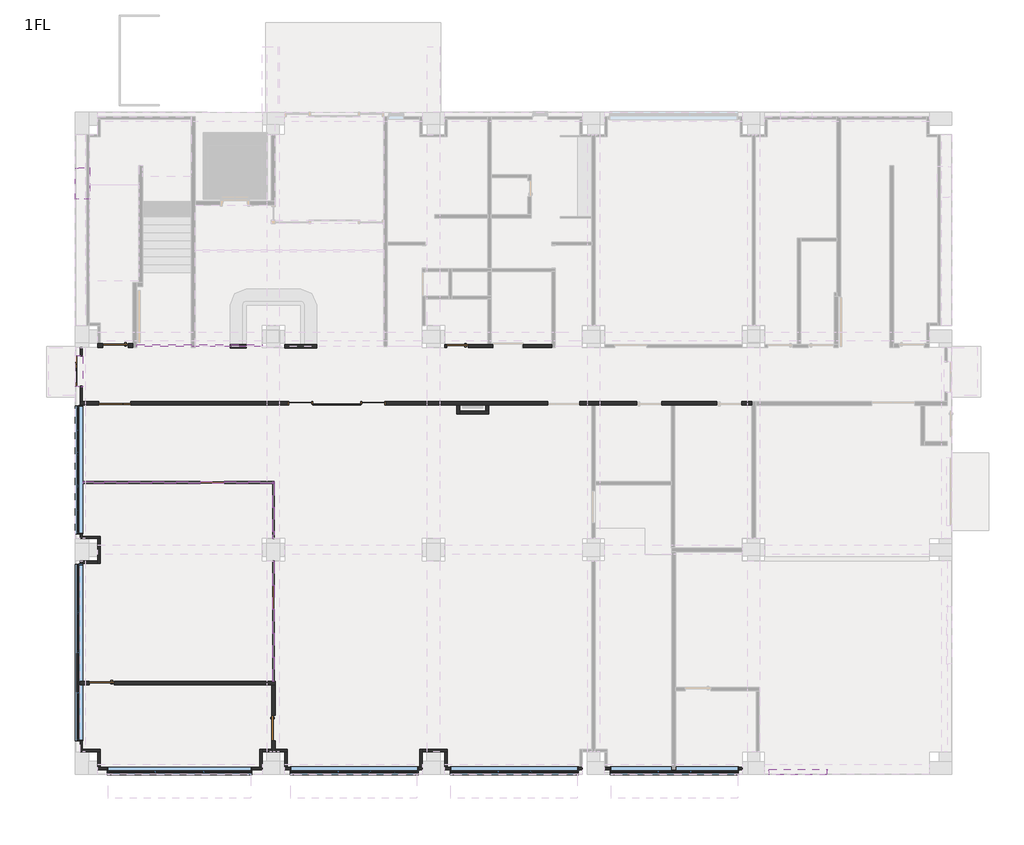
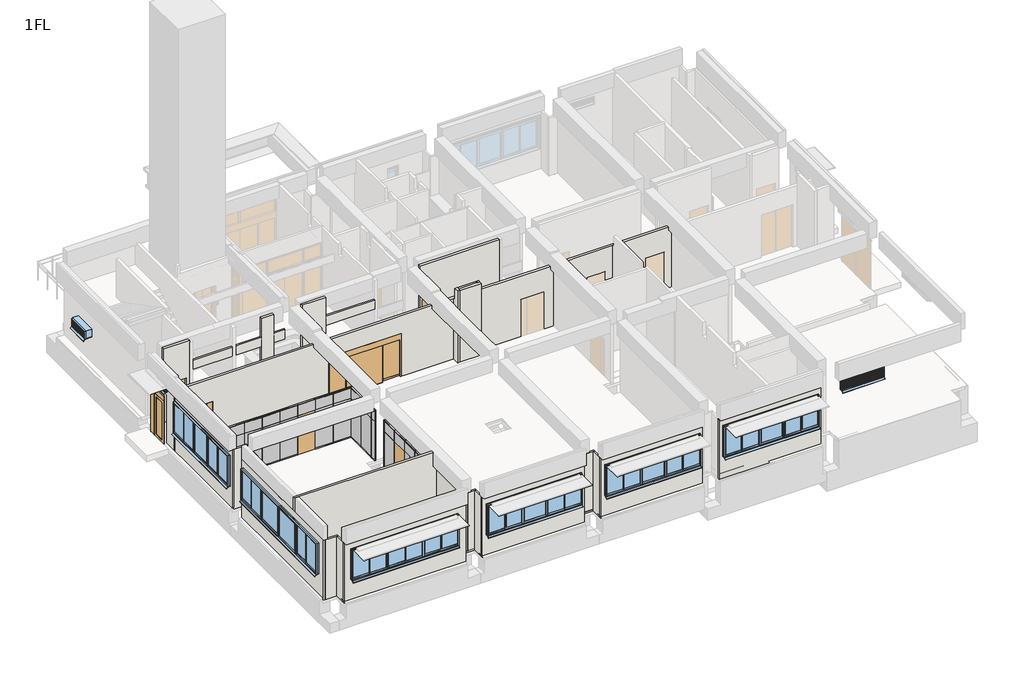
# One storey, part 1 of 7: 32 plates, 28 walls, 9 doors, 9 windows, 4 members.
"""IFC4 building model written with IfcOpenShell, lengths in millimetres."""

from ifc_helpers import new_model, si_unit, frame, origin, origin_with_axes, place, context, project, spatial, polyline, outline, extrude, faceted_brep, transform, mapped, element, save
from components import door_0812e9ce, door_48d1ee04, door_c406cbe6, door_18b0804b, door_71913196, pt1_1e1990d0, sd1b_5d5fe467, member_b4131282, member_8fee23aa, plate_13d9f7b6, plate_d83be5bd, plate_2d8f2c81, plate_48031bed, plate_dcb82f18, plate_a020456c, plate_84f50978, plate_53a28b3e, plate_ee08bcfe, plate_43aaac86, ag_01_14c91b01, ag_04_e8160d57, ag_05_8d684ac1, aw1_ddd8473e, aw2_a9c71f60, aw3_4e8724e7

model = new_model("IFC4")

# Units and contexts
model_context = context("Model", 3, world=origin())
ifc_project = project(units=[si_unit("LENGTHUNIT", "METRE", prefix="MILLI")], contexts=[model_context])

# Site, building, storey
site = spatial("IfcSite", under=ifc_project)
building = spatial("IfcBuilding", under=site)
storey = spatial("IfcBuildingStorey", under=building, Name="1FL", Elevation=0.0)

# Doors
placement = place(None, origin())
door_shape = door_0812e9ce(model_context)
element("IfcDoor", 1, ObjectType="営_片開き扉 : LD3 950*2000", at=placement, inside=storey, context=model_context, shape_type="MappedRepresentation", body=[
    mapped(door_shape, transform((565.0, 3000.0, 0.0), x_axis=(-1.0, 0.0, 0.0), y_axis=(0.0, -1.0, 0.0), z_axis=(0.0, 0.0, 1.0))),
])
element("IfcDoor", 2, ObjectType="営_片開き扉 : LD3 950*2000", at=placement, inside=storey, context=model_context, shape_type="MappedRepresentation", body=[
    mapped(door_shape, transform((7000.0, 1320.0, 0.0), x_axis=(0.0, -1.0, 0.0), y_axis=(1.0, 0.0, 0.0), z_axis=(0.0, 0.0, 1.0))),
])
door_2_shape = door_48d1ee04(model_context)
element("IfcDoor", 3, ObjectType="営_片開き扉 : LD11 850*2000", at=placement, inside=storey, context=model_context, shape_type="MappedRepresentation", body=[
    mapped(door_2_shape, transform((13900.0, 15640.0, 0.0), x_axis=(-1.0, 0.0, 0.0), y_axis=(0.0, -1.0, 0.0), z_axis=(0.0, 0.0, 1.0))),
])
door_3_shape = door_c406cbe6(model_context)
element("IfcDoor", 4, ObjectType="営_片開き扉 : LD3 950*2000", at=placement, inside=storey, context=model_context, shape_type="MappedRepresentation", body=[
    mapped(door_3_shape, transform((1075.0, 15655.0, 0.0), x_axis=(-1.0, 0.0, 0.0), y_axis=(0.0, -1.0, 0.0), z_axis=(0.0, 0.0, 1.0))),
])
door_4_shape = door_18b0804b(model_context)
element("IfcDoor", 5, ObjectType="営_親子扉 : LD2 1200*2000", at=placement, inside=storey, context=model_context, shape_type="MappedRepresentation", body=[
    mapped(door_4_shape, transform((1055.0, 13500.0, 0.0), x_axis=(-1.0, 0.0, 0.0), y_axis=(0.0, -1.0, 0.0), z_axis=(0.0, 0.0, 1.0))),
])
door_5_shape = door_71913196(model_context)
element("IfcDoor", 6, ObjectType="営_自動ドア 両引き : SSD2 3600*2300", at=placement, inside=storey, context=model_context, shape_type="MappedRepresentation", body=[
    mapped(door_5_shape, transform((9372.3723775, 13490.0, 0.0), x_axis=(-1.0, 0.0, 0.0), y_axis=(0.0, -1.0, 0.0), z_axis=(0.0, 0.0, 1.0))),
])
pt1_shape = pt1_1e1990d0(model_context)
element("IfcDoor", 7, ObjectType="営_パーティションドア : PT1", at=placement, inside=storey, context=model_context, shape_type="MappedRepresentation", body=[
    mapped(pt1_shape, transform((4714.9999997, 10520.0, 0.0), x_axis=(-1.0, 0.0, 0.0), y_axis=(0.0, -1.0, 0.0), z_axis=(0.0, 0.0, 1.0))),
])
element("IfcDoor", 8, ObjectType="営_パーティションドア : PT2", at=placement, inside=storey, context=model_context, shape_type="MappedRepresentation", body=[
    mapped(pt1_shape, transform((7000.0, 6220.0, 0.0), x_axis=(0.0, 1.0, 0.0), y_axis=(-1.0, 0.0, 0.0), z_axis=(0.0, 0.0, 1.0))),
])
sd1b_shape = sd1b_5d5fe467(model_context)
element("IfcDoor", 9, ObjectType="営_親子扉+ランマ : SD1b", at=placement, inside=storey, context=model_context, shape_type="MappedRepresentation", body=[
    mapped(sd1b_shape, transform((-335.0, 14707.5, 0.0), x_axis=(0.0, -1.0, 0.0), y_axis=(1.0, 0.0, 0.0), z_axis=(0.0, 0.0, 1.0))),
])

# Members
member_shape = member_b4131282(model_context)
element("IfcMember", 10, ObjectType="長方形マリオン : 70*70", at=placement, inside=storey, context=model_context, shape_type="MappedRepresentation", body=[
    mapped(member_shape, transform((7000.0, 10555.0, 0.0), x_axis=(0.0, 1.0, 0.0), y_axis=(1.0, 0.0, 0.0), z_axis=(0.0, 0.0, -1.0))),
])
element("IfcMember", 11, ObjectType="長方形マリオン : 70*70", at=placement, inside=storey, context=model_context, shape_type="MappedRepresentation", body=[
    mapped(member_shape, transform((7035.0, 10520.0, 0.0), x_axis=(1.0, 0.0, 0.0), y_axis=(0.0, -1.0, 0.0), z_axis=(0.0, 0.0, -1.0))),
])
member_2_shape = member_8fee23aa(model_context)
element("IfcMember", 12, ObjectType="長方形マリオン : 70*70", at=placement, inside=storey, context=model_context, shape_type="MappedRepresentation", body=[
    mapped(member_2_shape, transform((7000.0, 10555.0, 2100.0), x_axis=(0.0, 1.0, 0.0), y_axis=(1.0, 0.0, 0.0), z_axis=(0.0, 0.0, -1.0))),
])
element("IfcMember", 13, ObjectType="長方形マリオン : 70*70", at=placement, inside=storey, context=model_context, shape_type="MappedRepresentation", body=[
    mapped(member_2_shape, transform((7035.0, 10520.0, 2100.0), x_axis=(1.0, 0.0, 0.0), y_axis=(0.0, -1.0, 0.0), z_axis=(0.0, 0.0, -1.0))),
])

# Plates
plate_shape = plate_13d9f7b6(model_context)
element("IfcPlate", 14, ObjectType="営_パーティションパネル_下部 : パーティションパネル_下部", at=placement, inside=storey, context=model_context, shape_type="MappedRepresentation", body=[
    mapped(plate_shape, transform((7000.0, 7580.0, 0.0), x_axis=(0.0, -1.0, 0.0), y_axis=(1.0, 0.0, 0.0), z_axis=(0.0, 0.0, 1.0))),
])
plate_2_shape = plate_d83be5bd(model_context)
element("IfcPlate", 15, ObjectType="営_パーティションパネル_上部 : パーティションパネル_上部", at=placement, inside=storey, context=model_context, shape_type="MappedRepresentation", body=[
    mapped(plate_2_shape, transform((7000.0, 7580.0, 2100.0), x_axis=(0.0, -1.0, 0.0), y_axis=(1.0, 0.0, 0.0), z_axis=(0.0, 0.0, 1.0))),
])
plate_3_shape = plate_2d8f2c81(model_context)
element("IfcPlate", 16, ObjectType="営_パーティションパネル_下部 : パーティションパネル_下部", at=placement, inside=storey, context=model_context, shape_type="MappedRepresentation", body=[
    mapped(plate_3_shape, transform((267.4999998, 10520.0, 0.0), x_axis=(1.0, 0.0, 0.0), y_axis=(0.0, 1.0, 0.0), z_axis=(0.0, 0.0, 1.0))),
])
plate_4_shape = plate_48031bed(model_context)
element("IfcPlate", 17, ObjectType="営_パーティションパネル_上部 : パーティションパネル_上部", at=placement, inside=storey, context=model_context, shape_type="MappedRepresentation", body=[
    mapped(plate_4_shape, transform((267.4999998, 10520.0, 2100.0), x_axis=(1.0, 0.0, 0.0), y_axis=(0.0, 1.0, 0.0), z_axis=(0.0, 0.0, 1.0))),
])
plate_5_shape = plate_dcb82f18(model_context)
element("IfcPlate", 18, ObjectType="営_パーティションパネル_下部 : パーティションパネル_下部", at=placement, inside=storey, context=model_context, shape_type="MappedRepresentation", body=[
    mapped(plate_5_shape, transform((7000.0, 3515.0, 0.0), x_axis=(0.0, -1.0, 0.0), y_axis=(1.0, 0.0, 0.0), z_axis=(0.0, 0.0, 1.0))),
])
plate_6_shape = plate_a020456c(model_context)
element("IfcPlate", 19, ObjectType="営_パーティションパネル_上部 : パーティションパネル_上部", at=placement, inside=storey, context=model_context, shape_type="MappedRepresentation", body=[
    mapped(plate_6_shape, transform((7000.0, 3515.0, 2100.0), x_axis=(0.0, -1.0, 0.0), y_axis=(1.0, 0.0, 0.0), z_axis=(0.0, 0.0, 1.0))),
])
plate_7_shape = plate_84f50978(model_context)
element("IfcPlate", 20, ObjectType="営_パーティションパネル_下部 : パーティションパネル_下部", at=placement, inside=storey, context=model_context, shape_type="MappedRepresentation", body=[
    mapped(plate_7_shape, transform((1114.9999997, 10520.0, 0.0), x_axis=(1.0, 0.0, 0.0), y_axis=(0.0, 1.0, 0.0), z_axis=(0.0, 0.0, 1.0))),
])
element("IfcPlate", 21, ObjectType="営_パーティションパネル_下部 : パーティションパネル_下部", at=placement, inside=storey, context=model_context, shape_type="MappedRepresentation", body=[
    mapped(plate_7_shape, transform((2014.9999997, 10520.0, 0.0), x_axis=(1.0, 0.0, 0.0), y_axis=(0.0, 1.0, 0.0), z_axis=(0.0, 0.0, 1.0))),
])
element("IfcPlate", 22, ObjectType="営_パーティションパネル_下部 : パーティションパネル_下部", at=placement, inside=storey, context=model_context, shape_type="MappedRepresentation", body=[
    mapped(plate_7_shape, transform((2914.9999997, 10520.0, 0.0), x_axis=(1.0, 0.0, 0.0), y_axis=(0.0, 1.0, 0.0), z_axis=(0.0, 0.0, 1.0))),
])
element("IfcPlate", 23, ObjectType="営_パーティションパネル_下部 : パーティションパネル_下部", at=placement, inside=storey, context=model_context, shape_type="MappedRepresentation", body=[
    mapped(plate_7_shape, transform((3814.9999997, 10520.0, 0.0), x_axis=(1.0, 0.0, 0.0), y_axis=(0.0, 1.0, 0.0), z_axis=(0.0, 0.0, 1.0))),
])
element("IfcPlate", 24, ObjectType="営_パーティションパネル_下部 : パーティションパネル_下部", at=placement, inside=storey, context=model_context, shape_type="MappedRepresentation", body=[
    mapped(plate_7_shape, transform((5614.9999997, 10520.0, 0.0), x_axis=(1.0, 0.0, 0.0), y_axis=(0.0, 1.0, 0.0), z_axis=(0.0, 0.0, 1.0))),
])
element("IfcPlate", 25, ObjectType="営_パーティションパネル_下部 : パーティションパネル_下部", at=placement, inside=storey, context=model_context, shape_type="MappedRepresentation", body=[
    mapped(plate_7_shape, transform((7000.0, 9134.9999997, 0.0), x_axis=(0.0, 1.0, 0.0), y_axis=(-1.0, 0.0, 0.0), z_axis=(0.0, 0.0, 1.0))),
])
element("IfcPlate", 26, ObjectType="営_パーティションパネル_下部 : パーティションパネル_下部", at=placement, inside=storey, context=model_context, shape_type="MappedRepresentation", body=[
    mapped(plate_7_shape, transform((7000.0, 10034.9999998, 0.0), x_axis=(0.0, 1.0, 0.0), y_axis=(-1.0, 0.0, 0.0), z_axis=(0.0, 0.0, 1.0))),
])
element("IfcPlate", 27, ObjectType="営_パーティションパネル_下部 : パーティションパネル_下部", at=placement, inside=storey, context=model_context, shape_type="MappedRepresentation", body=[
    mapped(plate_7_shape, transform((6514.9999998, 10520.0, 0.0), x_axis=(1.0, 0.0, 0.0), y_axis=(0.0, 1.0, 0.0), z_axis=(0.0, 0.0, 1.0))),
])
element("IfcPlate", 28, ObjectType="営_パーティションパネル_下部 : パーティションパネル_下部", at=placement, inside=storey, context=model_context, shape_type="MappedRepresentation", body=[
    mapped(plate_7_shape, transform((7000.0, 5320.0, 0.0), x_axis=(0.0, -1.0, 0.0), y_axis=(1.0, 0.0, 0.0), z_axis=(0.0, 0.0, 1.0))),
])
element("IfcPlate", 29, ObjectType="営_パーティションパネル_下部 : パーティションパネル_下部", at=placement, inside=storey, context=model_context, shape_type="MappedRepresentation", body=[
    mapped(plate_7_shape, transform((7000.0, 4420.0, 0.0), x_axis=(0.0, -1.0, 0.0), y_axis=(1.0, 0.0, 0.0), z_axis=(0.0, 0.0, 1.0))),
])
element("IfcPlate", 30, ObjectType="営_パーティションパネル_下部 : パーティションパネル_下部", at=placement, inside=storey, context=model_context, shape_type="MappedRepresentation", body=[
    mapped(plate_7_shape, transform((7000.0, 7120.0, 0.0), x_axis=(0.0, -1.0, 0.0), y_axis=(1.0, 0.0, 0.0), z_axis=(0.0, 0.0, 1.0))),
])
plate_8_shape = plate_53a28b3e(model_context)
element("IfcPlate", 31, ObjectType="営_パーティションパネル_上部 : パーティションパネル_上部", at=placement, inside=storey, context=model_context, shape_type="MappedRepresentation", body=[
    mapped(plate_8_shape, transform((1114.9999997, 10520.0, 2100.0), x_axis=(1.0, 0.0, 0.0), y_axis=(0.0, 1.0, 0.0), z_axis=(0.0, 0.0, 1.0))),
])
element("IfcPlate", 32, ObjectType="営_パーティションパネル_上部 : パーティションパネル_上部", at=placement, inside=storey, context=model_context, shape_type="MappedRepresentation", body=[
    mapped(plate_8_shape, transform((2014.9999997, 10520.0, 2100.0), x_axis=(1.0, 0.0, 0.0), y_axis=(0.0, 1.0, 0.0), z_axis=(0.0, 0.0, 1.0))),
])
element("IfcPlate", 33, ObjectType="営_パーティションパネル_上部 : パーティションパネル_上部", at=placement, inside=storey, context=model_context, shape_type="MappedRepresentation", body=[
    mapped(plate_8_shape, transform((2914.9999997, 10520.0, 2100.0), x_axis=(1.0, 0.0, 0.0), y_axis=(0.0, 1.0, 0.0), z_axis=(0.0, 0.0, 1.0))),
])
element("IfcPlate", 34, ObjectType="営_パーティションパネル_上部 : パーティションパネル_上部", at=placement, inside=storey, context=model_context, shape_type="MappedRepresentation", body=[
    mapped(plate_8_shape, transform((3814.9999997, 10520.0, 2100.0), x_axis=(1.0, 0.0, 0.0), y_axis=(0.0, 1.0, 0.0), z_axis=(0.0, 0.0, 1.0))),
])
element("IfcPlate", 35, ObjectType="営_パーティションパネル_上部 : パーティションパネル_上部", at=placement, inside=storey, context=model_context, shape_type="MappedRepresentation", body=[
    mapped(plate_8_shape, transform((4714.9999997, 10520.0, 2100.0), x_axis=(1.0, 0.0, 0.0), y_axis=(0.0, 1.0, 0.0), z_axis=(0.0, 0.0, 1.0))),
])
element("IfcPlate", 36, ObjectType="営_パーティションパネル_上部 : パーティションパネル_上部", at=placement, inside=storey, context=model_context, shape_type="MappedRepresentation", body=[
    mapped(plate_8_shape, transform((5614.9999997, 10520.0, 2100.0), x_axis=(1.0, 0.0, 0.0), y_axis=(0.0, 1.0, 0.0), z_axis=(0.0, 0.0, 1.0))),
])
element("IfcPlate", 37, ObjectType="営_パーティションパネル_上部 : パーティションパネル_上部", at=placement, inside=storey, context=model_context, shape_type="MappedRepresentation", body=[
    mapped(plate_8_shape, transform((7000.0, 9134.9999997, 2100.0), x_axis=(0.0, 1.0, 0.0), y_axis=(-1.0, 0.0, 0.0), z_axis=(0.0, 0.0, 1.0))),
])
element("IfcPlate", 38, ObjectType="営_パーティションパネル_上部 : パーティションパネル_上部", at=placement, inside=storey, context=model_context, shape_type="MappedRepresentation", body=[
    mapped(plate_8_shape, transform((7000.0, 10034.9999998, 2100.0), x_axis=(0.0, 1.0, 0.0), y_axis=(-1.0, 0.0, 0.0), z_axis=(0.0, 0.0, 1.0))),
])
element("IfcPlate", 39, ObjectType="営_パーティションパネル_上部 : パーティションパネル_上部", at=placement, inside=storey, context=model_context, shape_type="MappedRepresentation", body=[
    mapped(plate_8_shape, transform((6514.9999998, 10520.0, 2100.0), x_axis=(1.0, 0.0, 0.0), y_axis=(0.0, 1.0, 0.0), z_axis=(0.0, 0.0, 1.0))),
])
element("IfcPlate", 40, ObjectType="営_パーティションパネル_上部 : パーティションパネル_上部", at=placement, inside=storey, context=model_context, shape_type="MappedRepresentation", body=[
    mapped(plate_8_shape, transform((7000.0, 6220.0, 2100.0), x_axis=(0.0, -1.0, 0.0), y_axis=(1.0, 0.0, 0.0), z_axis=(0.0, 0.0, 1.0))),
])
element("IfcPlate", 41, ObjectType="営_パーティションパネル_上部 : パーティションパネル_上部", at=placement, inside=storey, context=model_context, shape_type="MappedRepresentation", body=[
    mapped(plate_8_shape, transform((7000.0, 5320.0, 2100.0), x_axis=(0.0, -1.0, 0.0), y_axis=(1.0, 0.0, 0.0), z_axis=(0.0, 0.0, 1.0))),
])
element("IfcPlate", 42, ObjectType="営_パーティションパネル_上部 : パーティションパネル_上部", at=placement, inside=storey, context=model_context, shape_type="MappedRepresentation", body=[
    mapped(plate_8_shape, transform((7000.0, 4420.0, 2100.0), x_axis=(0.0, -1.0, 0.0), y_axis=(1.0, 0.0, 0.0), z_axis=(0.0, 0.0, 1.0))),
])
element("IfcPlate", 43, ObjectType="営_パーティションパネル_上部 : パーティションパネル_上部", at=placement, inside=storey, context=model_context, shape_type="MappedRepresentation", body=[
    mapped(plate_8_shape, transform((7000.0, 7120.0, 2100.0), x_axis=(0.0, -1.0, 0.0), y_axis=(1.0, 0.0, 0.0), z_axis=(0.0, 0.0, 1.0))),
])
plate_9_shape = plate_ee08bcfe(model_context)
element("IfcPlate", 44, ObjectType="営_パーティションパネル_下部 : パーティションパネル_下部", at=placement, inside=storey, context=model_context, shape_type="MappedRepresentation", body=[
    mapped(plate_9_shape, transform((7000.0, 8552.4999998, 0.0), x_axis=(0.0, 1.0, 0.0), y_axis=(-1.0, 0.0, 0.0), z_axis=(0.0, 0.0, 1.0))),
])
plate_10_shape = plate_43aaac86(model_context)
element("IfcPlate", 45, ObjectType="営_パーティションパネル_上部 : パーティションパネル_上部", at=placement, inside=storey, context=model_context, shape_type="MappedRepresentation", body=[
    mapped(plate_10_shape, transform((7000.0, 8552.4999998, 2100.0), x_axis=(0.0, 1.0, 0.0), y_axis=(-1.0, 0.0, 0.0), z_axis=(0.0, 0.0, 1.0))),
])

# Walls
element("IfcWall", 46, ObjectType="(内壁)W4", at=placement, inside=storey, context=model_context, shape_type="Brep", body=[
    faceted_brep([(-250.0, 2940.0, 3850.0), (-250.0, 2940.0, 0.0), (90.0, 2940.0, 0.0), (90.0, 2940.0, 2000.0), (1040.0, 2940.0, 2000.0), (1040.0, 2940.0, 0.0), (6940.0, 2940.0, 0.0), (7060.0, 2940.0, 0.0), (7060.0, 2940.0, 3100.0), (6940.0, 2940.0, 3100.0), (6775.0, 2940.0, 3100.0), (6775.0, 2940.0, 3850.0), (-250.0, 3060.0, 0.0), (-250.0, 3060.0, 3850.0), (6775.0, 3060.0, 3850.0), (6775.0, 3060.0, 3100.0), (7060.0, 3060.0, 3100.0), (7060.0, 3060.0, 0.0), (1040.0, 3060.0, 0.0), (1040.0, 3060.0, 2000.0), (90.0, 3060.0, 2000.0), (90.0, 3060.0, 0.0)], [[[0, 1, 2, 3, 4, 5, 6, 7, 8, 9, 10, 11]], [[12, 13, 14, 15, 16, 17, 18, 19, 20, 21]], [[1, 12, 21, 2]], [[17, 7, 6, 5, 18]], [[13, 0, 11, 14]], [[1, 0, 13, 12]], [[7, 17, 16, 8]], [[5, 4, 19, 18]], [[3, 2, 21, 20]], [[4, 3, 20, 19]], [[15, 10, 9, 8, 16]], [[10, 15, 14, 11]]]),
])
element("IfcWall", 47, ObjectType="(内壁)W4", at=placement, inside=storey, context=model_context, shape_type="Brep", body=[
    faceted_brep([(6940.0, 1795.0, 0.0), (6940.0, 1795.0, 2000.0), (6940.0, 845.0, 2000.0), (6940.0, 845.0, 0.0), (6940.0, 510.0, 0.0), (6940.0, 420.0, 0.0), (6940.0, 420.0, 3100.0), (6940.0, 510.0, 3100.0), (6940.0, 2940.0, 3100.0), (6940.0, 2940.0, 0.0), (7060.0, 1795.0, 2000.0), (7060.0, 1795.0, 0.0), (7060.0, 2940.0, 0.0), (7060.0, 2940.0, 3100.0), (7060.0, 510.0, 3100.0), (7060.0, 420.0, 3100.0), (7060.0, 420.0, 0.0), (7060.0, 510.0, 0.0), (7060.0, 845.0, 0.0), (7060.0, 845.0, 2000.0)], [[[0, 1, 2, 3, 4, 5, 6, 7, 8, 9]], [[10, 11, 12, 13, 14, 15, 16, 17, 18, 19]], [[9, 12, 11, 0]], [[3, 18, 17, 16, 5, 4]], [[12, 9, 8, 13]], [[11, 10, 1, 0]], [[19, 18, 3, 2]], [[10, 19, 2, 1]], [[5, 16, 15, 6]], [[8, 7, 6, 15, 14, 13]]]),
])
element("IfcWall", 48, ObjectType="(内壁)W3", at=placement, inside=storey, context=model_context, shape_type="Brep", body=[
    faceted_brep([(1655.0, 13440.0, 2000.0), (1655.0, 13440.0, 0.0), (7532.3723775, 13440.0, 0.0), (7532.3723775, 13440.0, 2300.0), (11212.3723775, 13440.0, 2300.0), (11212.3723775, 13440.0, 0.0), (13870.0, 13440.0, 0.0), (13990.0, 13440.0, 0.0), (14950.0, 13440.0, 0.0), (15070.0, 13440.0, 0.0), (17275.0, 13440.0, 0.0), (17275.0, 13440.0, 2000.0), (18475.0, 13440.0, 2000.0), (18475.0, 13440.0, 0.0), (20610.0, 13440.0, 0.0), (20610.0, 13440.0, 2000.0), (21560.0, 13440.0, 2000.0), (21560.0, 13440.0, 0.0), (21920.0, 13440.0, 0.0), (22040.0, 13440.0, 0.0), (23610.0, 13440.0, 0.0), (23610.0, 13440.0, 2000.0), (24560.0, 13440.0, 2000.0), (24560.0, 13440.0, 0.0), (24925.0, 13440.0, 0.0), (24925.0, 13440.0, 3100.0), (24775.0, 13440.0, 3100.0), (24775.0, 13440.0, 3250.0), (22040.0, 13440.0, 3250.0), (21920.0, 13440.0, 3250.0), (19225.0, 13440.0, 3250.0), (19225.0, 13440.0, 3100.0), (19060.0, 13440.0, 3100.0), (18940.0, 13440.0, 3100.0), (18775.0, 13440.0, 3100.0), (18775.0, 13440.0, 3250.0), (15070.0, 13440.0, 3250.0), (14950.0, 13440.0, 3250.0), (13990.0, 13440.0, 3250.0), (13870.0, 13440.0, 3250.0), (13225.0, 13440.0, 3250.0), (13225.0, 13440.0, 3100.0), (12775.0, 13440.0, 3100.0), (12775.0, 13440.0, 3250.0), (7225.0, 13440.0, 3250.0), (7225.0, 13440.0, 3100.0), (6775.0, 13440.0, 3100.0), (6775.0, 13440.0, 3250.0), (-50.0, 13440.0, 3250.0), (-50.0, 13440.0, 3100.0), (-160.0, 13440.0, 3100.0), (-250.0, 13440.0, 3100.0), (-250.0, 13440.0, 0.0), (-160.0, 13440.0, 0.0), (455.0, 13440.0, 0.0), (455.0, 13440.0, 2000.0), (1655.0, 13560.0, 0.0), (1655.0, 13560.0, 2000.0), (455.0, 13560.0, 2000.0), (455.0, 13560.0, 0.0), (-160.0, 13560.0, 0.0), (-250.0, 13560.0, 0.0), (-250.0, 13560.0, 3100.0), (-160.0, 13560.0, 3100.0), (-50.0, 13560.0, 3100.0), (-50.0, 13560.0, 3250.0), (6775.0, 13560.0, 3250.0), (6775.0, 13560.0, 3100.0), (7225.0, 13560.0, 3100.0), (7225.0, 13560.0, 3250.0), (12775.0, 13560.0, 3250.0), (12775.0, 13560.0, 3100.0), (13225.0, 13560.0, 3100.0), (13225.0, 13560.0, 3250.0), (18775.0, 13560.0, 3250.0), (18775.0, 13560.0, 3100.0), (19225.0, 13560.0, 3100.0), (19225.0, 13560.0, 3250.0), (24775.0, 13560.0, 3250.0), (24775.0, 13560.0, 3100.0), (24925.0, 13560.0, 3100.0), (24925.0, 13560.0, 0.0), (24560.0, 13560.0, 0.0), (24560.0, 13560.0, 2000.0), (23610.0, 13560.0, 2000.0), (23610.0, 13560.0, 0.0), (21560.0, 13560.0, 0.0), (21560.0, 13560.0, 2000.0), (20610.0, 13560.0, 2000.0), (20610.0, 13560.0, 0.0), (18475.0, 13560.0, 0.0), (18475.0, 13560.0, 2000.0), (17275.0, 13560.0, 2000.0), (17275.0, 13560.0, 0.0), (11212.3723775, 13560.0, 0.0), (11212.3723775, 13560.0, 2300.0), (7532.3723775, 13560.0, 2300.0), (7532.3723775, 13560.0, 0.0), (24925.0, 13555.0, 0.0), (24925.0, 13555.0, 3100.0)], [[[0, 1, 2, 3, 4, 5, 6, 7, 8, 9, 10, 11, 12, 13, 14, 15, 16, 17, 18, 19, 20, 21, 22, 23, 24, 25, 26, 27, 28, 29, 30, 31, 32, 33, 34, 35, 36, 37, 38, 39, 40, 41, 42, 43, 44, 45, 46, 47, 48, 49, 50, 51, 52, 53, 54, 55]], [[56, 57, 58, 59, 60, 61, 62, 63, 64, 65, 66, 67, 68, 69, 70, 71, 72, 73, 74, 75, 76, 77, 78, 79, 80, 81, 82, 83, 84, 85, 86, 87, 88, 89, 90, 91, 92, 93, 94, 95, 96, 97]], [[52, 61, 60, 59, 54, 53]], [[81, 98, 24, 23, 82]], [[1, 56, 97, 2]], [[93, 10, 9, 8, 7, 6, 5, 94]], [[13, 90, 89, 14]], [[17, 86, 85, 20, 19, 18]], [[65, 48, 47, 66]], [[69, 44, 43, 70]], [[73, 40, 39, 38, 37, 36, 35, 74]], [[77, 30, 29, 28, 27, 78]], [[61, 52, 51, 62]], [[24, 98, 81, 80, 99, 25]], [[1, 0, 57, 56]], [[55, 54, 59, 58]], [[0, 55, 58, 57]], [[93, 92, 11, 10]], [[91, 90, 13, 12]], [[92, 91, 12, 11]], [[89, 88, 15, 14]], [[87, 86, 17, 16]], [[88, 87, 16, 15]], [[85, 84, 21, 20]], [[83, 82, 23, 22]], [[84, 83, 22, 21]], [[64, 49, 48, 65]], [[49, 64, 63, 62, 51, 50]], [[68, 45, 44, 69]], [[45, 68, 67, 46]], [[46, 67, 66, 47]], [[72, 41, 40, 73]], [[41, 72, 71, 42]], [[42, 71, 70, 43]], [[76, 31, 30, 77]], [[31, 76, 75, 34, 33, 32]], [[34, 75, 74, 35]], [[79, 26, 25, 99, 80]], [[26, 79, 78, 27]], [[96, 3, 2, 97]], [[3, 96, 95, 4]], [[4, 95, 94, 5]]]),
])
element("IfcWall", 49, ObjectType="(内壁)W4", at=placement, inside=storey, context=model_context, shape_type="Brep", body=[
    faceted_brep([(17440.0, 15580.0, 0.0), (17440.0, 15580.0, 3850.0), (13420.0, 15580.0, 3850.0), (13420.0, 15580.0, 0.0), (13500.0, 15580.0, 0.0), (13500.0, 15580.0, 2000.0), (14300.0, 15580.0, 2000.0), (14300.0, 15580.0, 0.0), (15220.0, 15580.0, 0.0), (15220.0, 15580.0, 2025.0), (16355.0, 15580.0, 2025.0), (16355.0, 15580.0, 0.0), (17440.0, 15700.0, 3850.0), (17440.0, 15700.0, 0.0), (16355.0, 15700.0, 0.0), (16355.0, 15700.0, 2025.0), (15220.0, 15700.0, 2025.0), (15220.0, 15700.0, 0.0), (15160.0, 15700.0, 0.0), (15040.0, 15700.0, 0.0), (14300.0, 15700.0, 0.0), (14300.0, 15700.0, 2000.0), (13500.0, 15700.0, 2000.0), (13500.0, 15700.0, 0.0), (13420.0, 15700.0, 0.0), (13420.0, 15700.0, 3850.0), (15040.0, 15700.0, 3850.0), (15160.0, 15700.0, 3850.0)], [[[0, 1, 2, 3, 4, 5, 6, 7, 8, 9, 10, 11]], [[12, 13, 14, 15, 16, 17, 18, 19, 20, 21, 22, 23, 24, 25, 26, 27]], [[13, 0, 11, 14]], [[17, 8, 7, 20, 19, 18]], [[23, 4, 3, 24]], [[1, 12, 27, 26, 25, 2]], [[1, 0, 13, 12]], [[16, 9, 8, 17]], [[10, 15, 14, 11]], [[9, 16, 15, 10]], [[3, 2, 25, 24]], [[7, 6, 21, 20]], [[5, 4, 23, 22]], [[6, 5, 22, 21]]]),
])
element("IfcWall", 50, ObjectType="(内壁)W3", at=placement, inside=storey, context=model_context, shape_type="SweptSolid", body=[
    extrude(outline(polyline([(5980.0, 15570.0), (5380.0, 15570.0), (5380.0, 15690.0), (5980.0, 15690.0), (5980.0, 15570.0)])), origin_with_axes(), (0.0, 0.0, 1.0), 3850.0),
])
element("IfcWall", 51, ObjectType="(内壁)W3", at=placement, inside=storey, context=model_context, shape_type="SweptSolid", body=[
    extrude(outline(polyline([(8620.0, 15570.0), (7420.0, 15570.0), (7420.0, 15690.0), (8620.0, 15690.0), (8620.0, 15570.0)])), origin_with_axes(), (0.0, 0.0, 1.0), 3850.0),
])
element("IfcWall", 52, ObjectType="(内壁)150_RC", at=placement, inside=storey, context=model_context, shape_type="Brep", body=[
    faceted_brep([(1550.0, 15580.0, 2000.0), (1550.0, 15580.0, 0.0), (1725.0, 15580.0, 0.0), (1725.0, 15580.0, 3850.0), (1725.0, 15580.0, 3940.0), (420.0, 15580.0, 3940.0), (420.0, 15580.0, 0.0), (600.0, 15580.0, 0.0), (600.0, 15580.0, 2000.0), (1550.0, 15730.0, 0.0), (1550.0, 15730.0, 2000.0), (600.0, 15730.0, 2000.0), (600.0, 15730.0, 0.0), (510.0, 15730.0, 0.0), (420.0, 15730.0, 0.0), (420.0, 15730.0, 3100.0), (420.0, 15730.0, 3940.0), (1725.0, 15730.0, 3940.0), (1725.0, 15730.0, 0.0)], [[[0, 1, 2, 3, 4, 5, 6, 7, 8]], [[9, 10, 11, 12, 13, 14, 15, 16, 17, 18]], [[1, 9, 18, 2]], [[12, 7, 6, 14, 13]], [[4, 17, 16, 5]], [[1, 0, 10, 9]], [[8, 7, 12, 11]], [[0, 8, 11, 10]], [[6, 5, 16, 15, 14]], [[2, 18, 17, 4, 3]]]),
])
element("IfcWall", 53, ObjectType="(内壁)下がり壁", at=placement, inside=storey, context=model_context, shape_type="SweptSolid", body=[
    extrude(outline(polyline([(11140.0, 15690.0), (11140.0, 15615.0), (7420.0, 15615.0), (7420.0, 15690.0), (11140.0, 15690.0)])), frame((0.0, 0.0, 2310.0), z_axis=(0.0, 0.0, 1.0), x_axis=(1.0, 0.0, 0.0)), (0.0, 0.0, 1.0), 500.0),
    extrude(outline(polyline([(1875.0, 15615.0), (1875.0, 15690.0), (6580.0, 15690.0), (6580.0, 15615.0), (1875.0, 15615.0)])), frame((0.0, 0.0, 2310.0), z_axis=(0.0, 0.0, 1.0), x_axis=(1.0, 0.0, 0.0)), (0.0, 0.0, 1.0), 500.0),
])
element("IfcWall", 54, ObjectType="(内壁)W3", at=placement, inside=storey, context=model_context, shape_type="Brep", body=[
    faceted_brep([(13870.0, 13440.0, 0.0), (13870.0, 13090.0, 0.0), (13870.0, 13090.0, 3850.0), (13870.0, 13325.0, 3850.0), (13870.0, 13325.0, 3250.0), (13870.0, 13440.0, 3250.0), (13990.0, 13090.0, 0.0), (13990.0, 13210.0, 0.0), (13990.0, 13440.0, 0.0), (13990.0, 13440.0, 3250.0), (13990.0, 13325.0, 3250.0), (13990.0, 13325.0, 3850.0), (13990.0, 13210.0, 3850.0), (13990.0, 13090.0, 3850.0)], [[[0, 1, 2, 3, 4, 5]], [[6, 7, 8, 9, 10, 11, 12, 13]], [[1, 0, 8, 7, 6]], [[2, 13, 12, 11, 3]], [[8, 0, 5, 9]], [[2, 1, 6, 13]], [[10, 4, 3, 11]], [[4, 10, 9, 5]]]),
])
element("IfcWall", 55, ObjectType="(内壁)W3", at=placement, inside=storey, context=model_context, shape_type="Brep", body=[
    faceted_brep([(13990.0, 13090.0, 0.0), (15070.0, 13090.0, 0.0), (15070.0, 13090.0, 3850.0), (13990.0, 13090.0, 3850.0), (13990.0, 13210.0, 0.0), (13990.0, 13210.0, 3850.0), (14950.0, 13210.0, 3850.0), (15070.0, 13210.0, 3850.0), (15070.0, 13210.0, 0.0), (14950.0, 13210.0, 0.0)], [[[0, 1, 2, 3]], [[4, 5, 6, 7, 8, 9]], [[1, 0, 4, 9, 8]], [[3, 2, 7, 6, 5]], [[0, 3, 5, 4]], [[2, 1, 8, 7]]]),
])
element("IfcWall", 56, ObjectType="(内壁)W3", at=placement, inside=storey, context=model_context, shape_type="SweptSolid", body=[
    extrude(outline(polyline([(13440.0, 0.0), (13210.0, 0.0), (13210.0, 3850.0), (13325.0, 3850.0), (13325.0, 3250.0), (13440.0, 3250.0), (13440.0, 0.0)])), frame((14950.0, 0.0, 0.0), z_axis=(1.0, 0.0, 0.0), x_axis=(0.0, 1.0, 0.0)), (0.0, 0.0, 1.0), 120.0),
])
element("IfcWall", 57, ObjectType="(内壁)W5", at=placement, inside=storey, context=model_context, shape_type="Brep", body=[
    faceted_brep([(420.0, -250.0, -100.0), (6580.0, -250.0, -100.0), (6580.0, -250.0, 3100.0), (420.0, -250.0, 3100.0), (763.7951348, -250.0, 1065.0), (763.7951348, -250.0, 2720.0), (6188.7951348, -250.0, 2720.0), (6188.7951348, -250.0, 1065.0), (6580.0, -160.0, -100.0), (6490.0, -160.0, -100.0), (510.0, -160.0, -100.0), (420.0, -160.0, -100.0), (420.0, -160.0, 3100.0), (510.0, -160.0, 3100.0), (6490.0, -160.0, 3100.0), (6580.0, -160.0, 3100.0), (763.7951348, -160.0, 2720.0), (763.7951348, -160.0, 1065.0), (6188.7951348, -160.0, 1065.0), (6188.7951348, -160.0, 2720.0)], [[[0, 1, 2, 3], [4, 5, 6, 7]], [[8, 9, 10, 11, 12, 13, 14, 15], [16, 17, 18, 19]], [[1, 0, 11, 10, 9, 8]], [[3, 2, 15, 14, 13, 12]], [[16, 5, 4, 17]], [[18, 7, 6, 19]], [[17, 4, 7, 18]], [[5, 16, 19, 6]], [[2, 1, 8, 15]], [[0, 3, 12, 11]]]),
])
element("IfcWall", 58, ObjectType="(内壁)W5", at=placement, inside=storey, context=model_context, shape_type="Brep", body=[
    faceted_brep([(7420.0, -250.0, -100.0), (12580.0, -250.0, -100.0), (12580.0, -250.0, 3100.0), (7420.0, -250.0, 3100.0), (7621.2951348, -250.0, 1065.0), (7621.2951348, -250.0, 2720.0), (12441.2951348, -250.0, 2720.0), (12441.2951348, -250.0, 1065.0), (12580.0, -160.0, -100.0), (12490.0, -160.0, -100.0), (7510.0, -160.0, -100.0), (7420.0, -160.0, -100.0), (7420.0, -160.0, 3100.0), (7510.0, -160.0, 3100.0), (12490.0, -160.0, 3100.0), (12580.0, -160.0, 3100.0), (7621.2951348, -160.0, 2720.0), (7621.2951348, -160.0, 1065.0), (12441.2951348, -160.0, 1065.0), (12441.2951348, -160.0, 2720.0)], [[[0, 1, 2, 3], [4, 5, 6, 7]], [[8, 9, 10, 11, 12, 13, 14, 15], [16, 17, 18, 19]], [[1, 0, 11, 10, 9, 8]], [[3, 2, 15, 14, 13, 12]], [[2, 1, 8, 15]], [[0, 3, 12, 11]], [[16, 5, 4, 17]], [[18, 7, 6, 19]], [[17, 4, 7, 18]], [[5, 16, 19, 6]]]),
])
element("IfcWall", 59, ObjectType="(内壁)W5", at=placement, inside=storey, context=model_context, shape_type="Brep", body=[
    faceted_brep([(13420.0, -250.0, -100.0), (18580.0, -250.0, -100.0), (18580.0, -250.0, 3100.0), (13420.0, -250.0, 3100.0), (13621.2951348, -250.0, 1065.0), (13621.2951348, -250.0, 2720.0), (18441.2951348, -250.0, 2720.0), (18441.2951348, -250.0, 1065.0), (18580.0, -160.0, -100.0), (18490.0, -160.0, -100.0), (13510.0, -160.0, -100.0), (13420.0, -160.0, -100.0), (13420.0, -160.0, 3100.0), (13510.0, -160.0, 3100.0), (18490.0, -160.0, 3100.0), (18580.0, -160.0, 3100.0), (13621.2951348, -160.0, 2720.0), (13621.2951348, -160.0, 1065.0), (18441.2951348, -160.0, 1065.0), (18441.2951348, -160.0, 2720.0)], [[[0, 1, 2, 3], [4, 5, 6, 7]], [[8, 9, 10, 11, 12, 13, 14, 15], [16, 17, 18, 19]], [[1, 0, 11, 10, 9, 8]], [[3, 2, 15, 14, 13, 12]], [[2, 1, 8, 15]], [[0, 3, 12, 11]], [[16, 5, 4, 17]], [[18, 7, 6, 19]], [[17, 4, 7, 18]], [[5, 16, 19, 6]]]),
])
element("IfcWall", 60, ObjectType="(内壁)W5", at=placement, inside=storey, context=model_context, shape_type="Brep", body=[
    faceted_brep([(19420.0, -250.0, -100.0), (24580.0, -250.0, -100.0), (24580.0, -250.0, 3100.0), (19420.0, -250.0, 3100.0), (19621.2951348, -250.0, 1065.0), (19621.2951348, -250.0, 2720.0), (24441.2951348, -250.0, 2720.0), (24441.2951348, -250.0, 1065.0), (24580.0, -160.0, -100.0), (19510.0, -160.0, -100.0), (19420.0, -160.0, -100.0), (19420.0, -160.0, 3100.0), (19510.0, -160.0, 3100.0), (24580.0, -160.0, 3100.0), (19621.2951348, -160.0, 2720.0), (19621.2951348, -160.0, 1065.0), (24441.2951348, -160.0, 1065.0), (24441.2951348, -160.0, 2720.0)], [[[0, 1, 2, 3], [4, 5, 6, 7]], [[8, 9, 10, 11, 12, 13], [14, 15, 16, 17]], [[1, 0, 10, 9, 8]], [[2, 1, 8, 13]], [[3, 2, 13, 12, 11]], [[0, 3, 11, 10]], [[14, 5, 4, 15]], [[16, 7, 6, 17]], [[15, 4, 7, 16]], [[5, 14, 17, 6]]]),
])
element("IfcWall", 61, ObjectType="(内壁)W5", at=placement, inside=storey, context=model_context, shape_type="Brep", body=[
    faceted_brep([(-250.0, 7580.0, -100.0), (-250.0, 420.0, -100.0), (-250.0, 420.0, 3100.0), (-250.0, 7580.0, 3100.0), (-250.0, 7465.0, 1065.0), (-250.0, 7465.0, 2720.0), (-250.0, 835.0, 2720.0), (-250.0, 835.0, 1065.0), (-160.0, 420.0, -100.0), (-160.0, 510.0, -100.0), (-160.0, 7490.0, -100.0), (-160.0, 7580.0, -100.0), (-160.0, 7580.0, 3100.0), (-160.0, 7490.0, 3100.0), (-160.0, 510.0, 3100.0), (-160.0, 420.0, 3100.0), (-160.0, 7465.0, 2720.0), (-160.0, 7465.0, 1065.0), (-160.0, 835.0, 1065.0), (-160.0, 835.0, 2720.0)], [[[0, 1, 2, 3], [4, 5, 6, 7]], [[8, 9, 10, 11, 12, 13, 14, 15], [16, 17, 18, 19]], [[1, 0, 11, 10, 9, 8]], [[3, 2, 15, 14, 13, 12]], [[2, 1, 8, 15]], [[0, 3, 12, 11]], [[16, 5, 4, 17]], [[18, 7, 6, 19]], [[17, 4, 7, 18]], [[5, 16, 19, 6]]]),
])
element("IfcWall", 62, ObjectType="(内壁)W5", at=placement, inside=storey, context=model_context, shape_type="Brep", body=[
    faceted_brep([(-250.0, 8420.0, 0.0), (-250.0, 8420.0, 3100.0), (-250.0, 13440.0, 3100.0), (-250.0, 13440.0, 0.0), (-250.0, 13410.0, 1065.0), (-250.0, 13410.0, 2720.0), (-250.0, 8590.0, 2720.0), (-250.0, 8590.0, 1065.0), (-160.0, 8420.0, 3100.0), (-160.0, 8420.0, 0.0), (-160.0, 13440.0, 0.0), (-160.0, 13440.0, 3100.0), (-160.0, 8510.0, 3100.0), (-160.0, 13410.0, 2720.0), (-160.0, 13410.0, 1065.0), (-160.0, 8590.0, 1065.0), (-160.0, 8590.0, 2720.0)], [[[0, 1, 2, 3], [4, 5, 6, 7]], [[8, 9, 10, 11, 12], [13, 14, 15, 16]], [[9, 0, 3, 10]], [[1, 8, 12, 11, 2]], [[1, 0, 9, 8]], [[3, 2, 11, 10]], [[13, 5, 4, 14]], [[15, 7, 6, 16]], [[7, 15, 14, 4]], [[16, 6, 5, 13]]]),
    faceted_brep([(-250.0, 15262.5, 0.0), (-250.0, 15262.5, 2570.0), (-250.0, 14152.5, 2570.0), (-250.0, 14152.5, 0.0), (-250.0, 13560.0, 0.0), (-250.0, 13560.0, 3100.0), (-250.0, 14112.5, 3100.0), (-250.0, 14112.5, 2765.0), (-250.0, 15292.5, 2765.0), (-250.0, 15292.5, 3100.0), (-250.0, 15580.0, 3100.0), (-250.0, 15580.0, 0.0), (-160.0, 15262.5, 2570.0), (-160.0, 15262.5, 0.0), (-160.0, 15580.0, 0.0), (-160.0, 15580.0, 3100.0), (-160.0, 15292.5, 3100.0), (-160.0, 15292.5, 2765.0), (-160.0, 14112.5, 2765.0), (-160.0, 14112.5, 3100.0), (-160.0, 13560.0, 3100.0), (-160.0, 13560.0, 0.0), (-160.0, 14152.5, 0.0), (-160.0, 14152.5, 2570.0)], [[[0, 1, 2, 3, 4, 5, 6, 7, 8, 9, 10, 11]], [[12, 13, 14, 15, 16, 17, 18, 19, 20, 21, 22, 23]], [[13, 0, 11, 14]], [[3, 22, 21, 4]], [[10, 9, 16, 15]], [[19, 6, 5, 20]], [[13, 12, 1, 0]], [[23, 22, 3, 2]], [[12, 23, 2, 1]], [[9, 8, 17, 16]], [[7, 6, 19, 18]], [[8, 7, 18, 17]], [[5, 4, 21, 20]], [[11, 10, 15, 14]]]),
])
element("IfcWall", 63, ObjectType="(内壁)W5", at=placement, inside=storey, context=model_context, shape_type="Brep", body=[
    faceted_brep([(12580.0, -160.0, -100.0), (12580.0, 420.0, -100.0), (12580.0, 510.0, -100.0), (12580.0, 510.0, 3100.0), (12580.0, 420.0, 3100.0), (12580.0, -160.0, 3100.0), (12490.0, -160.0, -100.0), (12490.0, -160.0, 3100.0), (12490.0, 510.0, 3100.0), (12490.0, 510.0, -100.0)], [[[0, 1, 2, 3, 4, 5]], [[6, 7, 8, 9]], [[2, 1, 0, 6, 9]], [[5, 4, 3, 8, 7]], [[0, 5, 7, 6]], [[3, 2, 9, 8]]]),
])
element("IfcWall", 64, ObjectType="(内壁)W5", at=placement, inside=storey, context=model_context, shape_type="Brep", body=[
    faceted_brep([(12580.0, 420.0, -100.0), (13420.0, 420.0, -100.0), (13510.0, 420.0, -100.0), (13510.0, 420.0, 3100.0), (13420.0, 420.0, 3100.0), (12580.0, 420.0, 3100.0), (12580.0, 510.0, -100.0), (12580.0, 510.0, 3100.0), (13510.0, 510.0, 3100.0), (13510.0, 510.0, -100.0)], [[[0, 1, 2, 3, 4, 5]], [[6, 7, 8, 9]], [[2, 1, 0, 6, 9]], [[5, 4, 3, 8, 7]], [[0, 5, 7, 6]], [[3, 2, 9, 8]]]),
])
element("IfcWall", 65, ObjectType="(内壁)W5", at=placement, inside=storey, context=model_context, shape_type="SweptSolid", body=[
    extrude(outline(polyline([(13420.0, -160.0), (13420.0, 420.0), (13510.0, 420.0), (13510.0, -160.0), (13420.0, -160.0)])), frame((0.0, 0.0, -100.0), z_axis=(0.0, 0.0, 1.0), x_axis=(1.0, 0.0, 0.0)), (0.0, 0.0, 1.0), 3200.0),
])
element("IfcWall", 66, ObjectType="(内壁)W5", at=placement, inside=storey, context=model_context, shape_type="Brep", body=[
    faceted_brep([(6580.0, -160.0, -100.0), (6580.0, 420.0, -100.0), (6580.0, 510.0, -100.0), (6580.0, 510.0, 3100.0), (6580.0, 420.0, 3100.0), (6580.0, -160.0, 3100.0), (6490.0, -160.0, -100.0), (6490.0, -160.0, 3100.0), (6490.0, 510.0, 3100.0), (6490.0, 510.0, -100.0)], [[[0, 1, 2, 3, 4, 5]], [[6, 7, 8, 9]], [[2, 1, 0, 6, 9]], [[5, 4, 3, 8, 7]], [[0, 5, 7, 6]], [[3, 2, 9, 8]]]),
])
element("IfcWall", 67, ObjectType="(内壁)W5", at=placement, inside=storey, context=model_context, shape_type="Brep", body=[
    faceted_brep([(6580.0, 420.0, -100.0), (7420.0, 420.0, -100.0), (7510.0, 420.0, -100.0), (7510.0, 420.0, 3100.0), (7420.0, 420.0, 3100.0), (7060.0, 420.0, 3100.0), (7060.0, 420.0, 0.0), (6940.0, 420.0, 0.0), (6940.0, 420.0, 3100.0), (6580.0, 420.0, 3100.0), (7510.0, 510.0, -100.0), (6580.0, 510.0, -100.0), (6580.0, 510.0, 3100.0), (6940.0, 510.0, 3100.0), (6940.0, 510.0, 0.0), (7060.0, 510.0, 0.0), (7060.0, 510.0, 3100.0), (7510.0, 510.0, 3100.0)], [[[0, 1, 2, 3, 4, 5, 6, 7, 8, 9]], [[10, 11, 12, 13, 14, 15, 16, 17]], [[2, 1, 0, 11, 10]], [[12, 9, 8, 13]], [[3, 17, 16, 5, 4]], [[0, 9, 12, 11]], [[3, 2, 10, 17]], [[7, 14, 13, 8]], [[15, 6, 5, 16]], [[14, 7, 6, 15]]]),
])
element("IfcWall", 68, ObjectType="(内壁)W5", at=placement, inside=storey, context=model_context, shape_type="SweptSolid", body=[
    extrude(outline(polyline([(7420.0, -160.0), (7420.0, 420.0), (7510.0, 420.0), (7510.0, -160.0), (7420.0, -160.0)])), frame((0.0, 0.0, -100.0), z_axis=(0.0, 0.0, 1.0), x_axis=(1.0, 0.0, 0.0)), (0.0, 0.0, 1.0), 3200.0),
])
element("IfcWall", 69, ObjectType="(内壁)W5", at=placement, inside=storey, context=model_context, shape_type="Brep", body=[
    faceted_brep([(-160.0, 420.0, -100.0), (420.0, 420.0, -100.0), (510.0, 420.0, -100.0), (510.0, 420.0, 3100.0), (420.0, 420.0, 3100.0), (-160.0, 420.0, 3100.0), (-160.0, 510.0, -100.0), (-160.0, 510.0, 3100.0), (510.0, 510.0, 3100.0), (510.0, 510.0, -100.0)], [[[0, 1, 2, 3, 4, 5]], [[6, 7, 8, 9]], [[2, 1, 0, 6, 9]], [[5, 4, 3, 8, 7]], [[0, 5, 7, 6]], [[3, 2, 9, 8]]]),
])
element("IfcWall", 70, ObjectType="(内壁)W5", at=placement, inside=storey, context=model_context, shape_type="SweptSolid", body=[
    extrude(outline(polyline([(420.0, -160.0), (420.0, 420.0), (510.0, 420.0), (510.0, -160.0), (420.0, -160.0)])), frame((0.0, 0.0, -100.0), z_axis=(0.0, 0.0, 1.0), x_axis=(1.0, 0.0, 0.0)), (0.0, 0.0, 1.0), 3200.0),
])
element("IfcWall", 71, ObjectType="(内壁)W5", at=placement, inside=storey, context=model_context, shape_type="Brep", body=[
    faceted_brep([(-160.0, 8420.0, -100.0), (420.0, 8420.0, -100.0), (510.0, 8420.0, -100.0), (510.0, 8420.0, 3100.0), (420.0, 8420.0, 3100.0), (-160.0, 8420.0, 3100.0), (-160.0, 8420.0, 0.0), (-160.0, 8510.0, -100.0), (-160.0, 8510.0, 3100.0), (510.0, 8510.0, 3100.0), (510.0, 8510.0, -100.0)], [[[0, 1, 2, 3, 4, 5, 6]], [[7, 8, 9, 10]], [[2, 1, 0, 7, 10]], [[5, 4, 3, 9, 8]], [[0, 6, 5, 8, 7]], [[3, 2, 10, 9]]]),
])
element("IfcWall", 72, ObjectType="(内壁)W5", at=placement, inside=storey, context=model_context, shape_type="Brep", body=[
    faceted_brep([(420.0, 8420.0, -100.0), (420.0, 7580.0, -100.0), (420.0, 7490.0, -100.0), (420.0, 7490.0, 3100.0), (420.0, 7580.0, 3100.0), (420.0, 8420.0, 3100.0), (510.0, 8420.0, -100.0), (510.0, 8420.0, 3100.0), (510.0, 7490.0, 3100.0), (510.0, 7490.0, -100.0)], [[[0, 1, 2, 3, 4, 5]], [[6, 7, 8, 9]], [[2, 1, 0, 6, 9]], [[5, 4, 3, 8, 7]], [[0, 5, 7, 6]], [[3, 2, 9, 8]]]),
])
element("IfcWall", 73, ObjectType="(内壁)W5", at=placement, inside=storey, context=model_context, shape_type="SweptSolid", body=[
    extrude(outline(polyline([(-160.0, 7580.0), (420.0, 7580.0), (420.0, 7490.0), (-160.0, 7490.0), (-160.0, 7580.0)])), frame((0.0, 0.0, -100.0), z_axis=(0.0, 0.0, 1.0), x_axis=(1.0, 0.0, 0.0)), (0.0, 0.0, 1.0), 3200.0),
])

# Windows
ag_01_shape = ag_01_14c91b01(model_context)
element("IfcWindow", 74, ObjectType="営_単窓_ガラリ : AG-01", at=placement, inside=storey, context=model_context, shape_type="MappedRepresentation", body=[
    mapped(ag_01_shape, transform((26662.7, -335.0, 1400.0), x_axis=(-1.0, 0.0, 0.0), y_axis=(0.0, -1.0, 0.0), z_axis=(0.0, 0.0, 1.0))),
])
ag_04_shape = ag_04_e8160d57(model_context)
element("IfcWindow", 75, ObjectType="営_単窓_ガラリ : AG-05", at=placement, inside=storey, context=model_context, shape_type="MappedRepresentation", body=[
    mapped(ag_04_shape, transform((-335.0, 21735.0, 200.0), x_axis=(0.0, 1.0, 0.0), y_axis=(-1.0, 0.0, 0.0), z_axis=(0.0, 0.0, 1.0))),
])
ag_05_shape = ag_05_8d684ac1(model_context)
element("IfcWindow", 76, ObjectType="営_単窓_ガラリ : AG-05", at=placement, inside=storey, context=model_context, shape_type="MappedRepresentation", body=[
    mapped(ag_05_shape, transform((-335.0, 14702.5, 1600.0), x_axis=(0.0, 1.0, 0.0), y_axis=(-1.0, 0.0, 0.0), z_axis=(0.0, 0.0, 1.0))),
])
aw1_shape = aw1_ddd8473e(model_context)
element("IfcWindow", 77, ObjectType="営_連窓_両開き戸2+FIX1 : AW1", at=placement, inside=storey, context=model_context, shape_type="MappedRepresentation", body=[
    mapped(aw1_shape, transform((22031.2951348, -335.0, 0.0), x_axis=(-1.0, 0.0, 0.0), y_axis=(0.0, -1.0, 0.0), z_axis=(0.0, 0.0, 1.0))),
])
element("IfcWindow", 78, ObjectType="営_連窓_両開き戸2+FIX1 : AW1", at=placement, inside=storey, context=model_context, shape_type="MappedRepresentation", body=[
    mapped(aw1_shape, transform((-335.0, 11000.0, 0.0), x_axis=(0.0, 1.0, 0.0), y_axis=(-1.0, 0.0, 0.0), z_axis=(0.0, 0.0, 1.0))),
])
element("IfcWindow", 79, ObjectType="営_連窓_両開き戸2+FIX1 : AW1", at=placement, inside=storey, context=model_context, shape_type="MappedRepresentation", body=[
    mapped(aw1_shape, transform((16031.2951348, -335.0, 0.0), x_axis=(-1.0, 0.0, 0.0), y_axis=(0.0, -1.0, 0.0), z_axis=(0.0, 0.0, 1.0))),
])
element("IfcWindow", 80, ObjectType="営_連窓_両開き戸2+FIX1 : AW1", at=placement, inside=storey, context=model_context, shape_type="MappedRepresentation", body=[
    mapped(aw1_shape, transform((10031.2951348, -335.0, 0.0), x_axis=(-1.0, 0.0, 0.0), y_axis=(0.0, -1.0, 0.0), z_axis=(0.0, 0.0, 1.0))),
])
aw2_shape = aw2_a9c71f60(model_context)
element("IfcWindow", 81, ObjectType="営_連窓_引違い3 : AW2", at=placement, inside=storey, context=model_context, shape_type="MappedRepresentation", body=[
    mapped(aw2_shape, transform((3476.2951348, -335.0, 0.0), x_axis=(-1.0, 0.0, 0.0), y_axis=(0.0, -1.0, 0.0), z_axis=(0.0, 0.0, 1.0))),
])
aw3_shape = aw3_4e8724e7(model_context)
element("IfcWindow", 82, ObjectType="営_連窓_引違い2+FIX2 : AW3", at=placement, inside=storey, context=model_context, shape_type="MappedRepresentation", body=[
    mapped(aw3_shape, transform((-335.0, 4150.0, 0.0), x_axis=(0.0, 1.0, 0.0), y_axis=(-1.0, 0.0, 0.0), z_axis=(0.0, 0.0, 1.0))),
])

save(model, "model.ifc")
